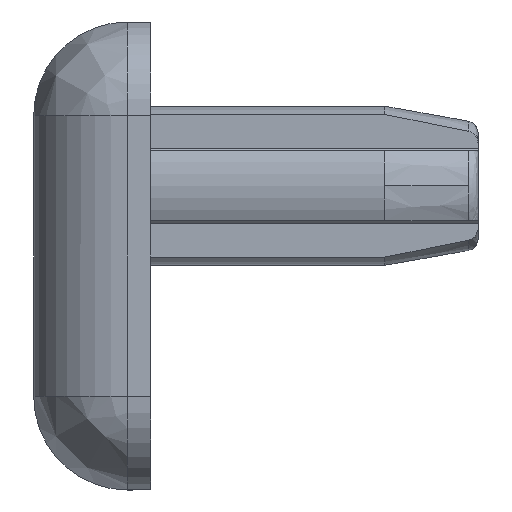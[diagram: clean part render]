
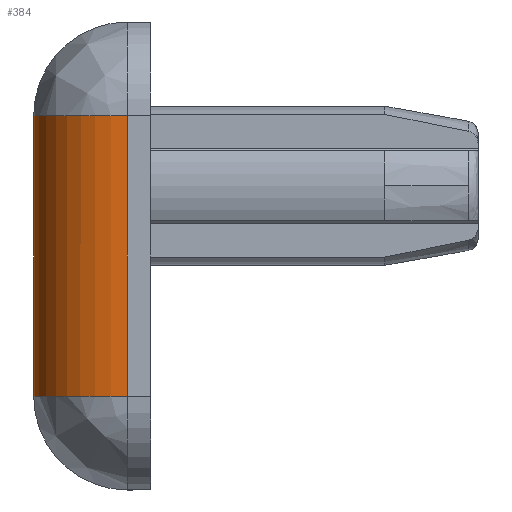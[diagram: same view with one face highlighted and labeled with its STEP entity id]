
A CAD part, left-side view. The second image highlights one B-rep face of the part: STEP entity #384.
In plain terms, the highlighted cylindrical face has radius 2 mm (diameter 4 mm), a partial arc.
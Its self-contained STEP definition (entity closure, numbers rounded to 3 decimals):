
#50 = DIRECTION ( 'NONE',  ( 0., 0., -1. ) ) ;
#76 = ORIENTED_EDGE ( 'NONE', *, *, #613, .F. ) ;
#109 = ORIENTED_EDGE ( 'NONE', *, *, #305, .T. ) ;
#203 = CYLINDRICAL_SURFACE ( 'NONE', #2914, 2. ) ;
#305 = EDGE_CURVE ( 'NONE', #1499, #1640, #2779, .T. ) ;
#348 = FACE_OUTER_BOUND ( 'NONE', #1804, .T. ) ;
#369 = EDGE_CURVE ( 'NONE', #2369, #1499, #1491, .T. ) ;
#384 = ADVANCED_FACE ( 'NONE', ( #348 ), #203, .T. ) ;
#456 = ORIENTED_EDGE ( 'NONE', *, *, #369, .T. ) ;
#547 = VECTOR ( 'NONE', #987, 1000. ) ;
#573 = CARTESIAN_POINT ( 'NONE',  ( -20., -2., -3. ) ) ;
#606 = ORIENTED_EDGE ( 'NONE', *, *, #2651, .T. ) ;
#613 = EDGE_CURVE ( 'NONE', #2762, #1640, #2242, .T. ) ;
#731 = DIRECTION ( 'NONE',  ( 0., -1., 0. ) ) ;
#785 = DIRECTION ( 'NONE',  ( 0., 0., -1. ) ) ;
#893 = CARTESIAN_POINT ( 'NONE',  ( -18., -2., -3. ) ) ;
#953 = VECTOR ( 'NONE', #50, 1000. ) ;
#987 = DIRECTION ( 'NONE',  ( 0., 0., 1. ) ) ;
#1127 = DIRECTION ( 'NONE',  ( 1., 0., 0. ) ) ;
#1188 = CARTESIAN_POINT ( 'NONE',  ( -18., 0., 3. ) ) ;
#1320 = CARTESIAN_POINT ( 'NONE',  ( -18., 0., -3. ) ) ;
#1491 = CIRCLE ( 'NONE', #2023, 2. ) ;
#1499 = VERTEX_POINT ( 'NONE', #1757 ) ;
#1640 = VERTEX_POINT ( 'NONE', #1320 ) ;
#1642 = CARTESIAN_POINT ( 'NONE',  ( -18., -2., 3. ) ) ;
#1757 = CARTESIAN_POINT ( 'NONE',  ( -18., 0., 3. ) ) ;
#1804 = EDGE_LOOP ( 'NONE', ( #76, #606, #456, #109 ) ) ;
#1948 = CARTESIAN_POINT ( 'NONE',  ( -18., -2., 3. ) ) ;
#2023 = AXIS2_PLACEMENT_3D ( 'NONE', #1948, #785, #731 ) ;
#2126 = DIRECTION ( 'NONE',  ( 0., -1., 0. ) ) ;
#2242 = CIRCLE ( 'NONE', #2574, 2. ) ;
#2284 = CARTESIAN_POINT ( 'NONE',  ( -20., -2., 3. ) ) ;
#2369 = VERTEX_POINT ( 'NONE', #2284 ) ;
#2374 = CARTESIAN_POINT ( 'NONE',  ( -20., -2., 3. ) ) ;
#2508 = DIRECTION ( 'NONE',  ( 0., 0., -1. ) ) ;
#2534 = LINE ( 'NONE', #2374, #547 ) ;
#2574 = AXIS2_PLACEMENT_3D ( 'NONE', #893, #2508, #1127 ) ;
#2616 = DIRECTION ( 'NONE',  ( 0., 0., 1. ) ) ;
#2651 = EDGE_CURVE ( 'NONE', #2762, #2369, #2534, .T. ) ;
#2762 = VERTEX_POINT ( 'NONE', #573 ) ;
#2779 = LINE ( 'NONE', #1188, #953 ) ;
#2914 = AXIS2_PLACEMENT_3D ( 'NONE', #1642, #2616, #2126 ) ;
